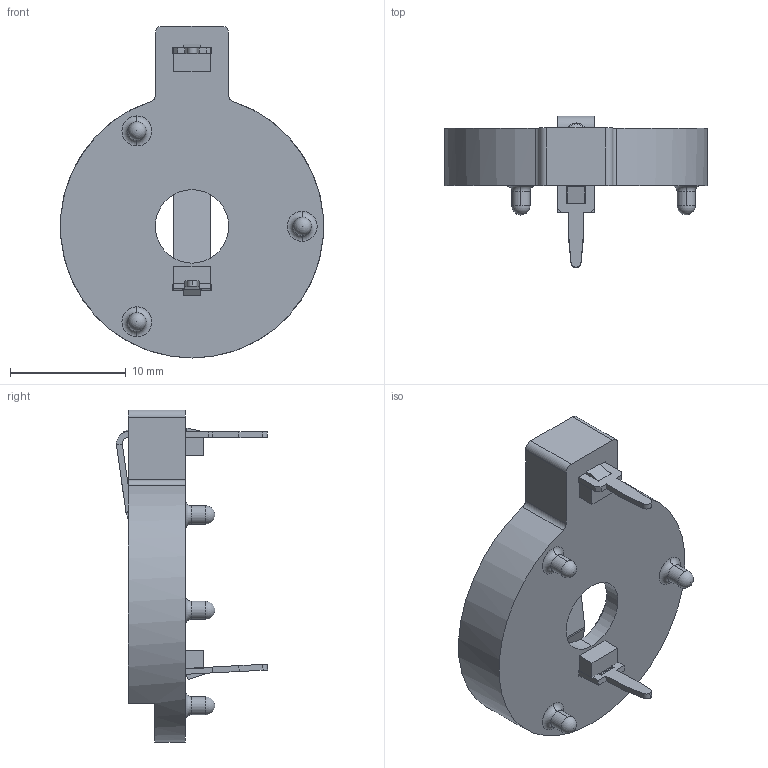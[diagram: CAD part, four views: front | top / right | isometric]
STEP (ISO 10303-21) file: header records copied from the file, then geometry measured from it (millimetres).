
FILE_DESCRIPTION (( 'STEP AP214' ), '1' );
FILE_NAME ('103.STEP', '2016-06-13T13:57:19', ( '' ), ( '' ), 'SwSTEP 2.0', 'SolidWorks 2013', '' );
FILE_SCHEMA (( 'AUTOMOTIVE_DESIGN' ));
Length unit declared in the file: inch
Products named in the file (1): 103
Bounding box: 22.71 x 13.07 x 28.7 mm (x, y, z)
Volume: 1154.8 mm3; surface area: 2085.7 mm2
Topology: 3 solids, 3 shells, 217 faces, 552 edges, 345 vertices
Faces by surface type: plane 152, cylinder 37, torus 10, bspline 9, sphere 7, cone 2
Entity records: 9901 total; most frequent: CARTESIAN_POINT 1804, ORIENTED_EDGE 1086, DIRECTION 1054, EDGE_CURVE 543, VECTOR 408, LINE 408, VERTEX_POINT 339, AXIS2_PLACEMENT_3D 323
